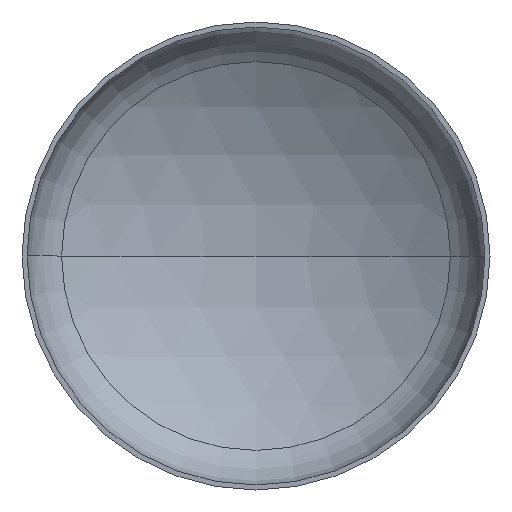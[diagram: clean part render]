
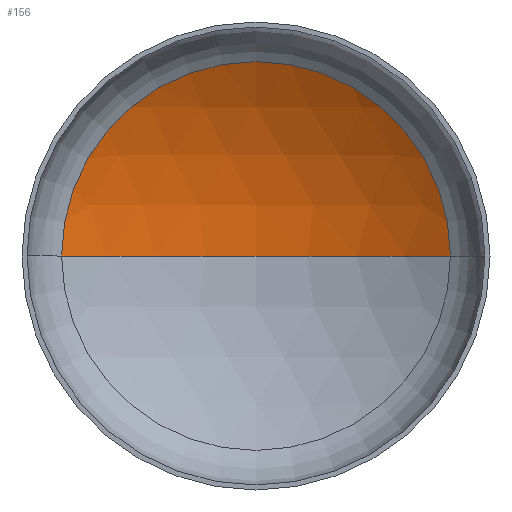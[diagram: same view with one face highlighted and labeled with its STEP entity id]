
A CAD part, front view. The second image highlights one B-rep face of the part: STEP entity #156.
In plain terms, the highlighted spherical face has radius 3200 mm.
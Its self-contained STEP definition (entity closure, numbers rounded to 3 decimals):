
#6 = DIRECTION ( 'NONE',  ( 0., 0., -1. ) ) ;
#9 = ORIENTED_EDGE ( 'NONE', *, *, #108, .F. ) ;
#12 = DIRECTION ( 'NONE',  ( 1., 0., 0. ) ) ;
#16 = EDGE_LOOP ( 'NONE', ( #9, #388, #249 ) ) ;
#51 = VERTEX_POINT ( 'NONE', #83 ) ;
#52 = AXIS2_PLACEMENT_3D ( 'NONE', #55, #129, #65 ) ;
#54 = CARTESIAN_POINT ( 'NONE',  ( 0., 655.631, 0. ) ) ;
#55 = CARTESIAN_POINT ( 'NONE',  ( 0., -2079.358, 0. ) ) ;
#57 = DIRECTION ( 'NONE',  ( -1., 0., 0. ) ) ;
#59 = AXIS2_PLACEMENT_3D ( 'NONE', #238, #319, #171 ) ;
#60 = AXIS2_PLACEMENT_3D ( 'NONE', #84, #6, #57 ) ;
#62 = AXIS2_PLACEMENT_3D ( 'NONE', #54, #73, #12 ) ;
#65 = DIRECTION ( 'NONE',  ( -1., 0., 0. ) ) ;
#73 = DIRECTION ( 'NONE',  ( 0., -1., 0. ) ) ;
#83 = CARTESIAN_POINT ( 'NONE',  ( 1661.277, 655.631, 0. ) ) ;
#84 = CARTESIAN_POINT ( 'NONE',  ( 0., -2079.358, 0. ) ) ;
#102 = EDGE_CURVE ( 'NONE', #51, #411, #386, .T. ) ;
#104 = EDGE_CURVE ( 'NONE', #315, #51, #318, .T. ) ;
#107 = SPHERICAL_SURFACE ( 'NONE', #52, 3200. ) ;
#108 = EDGE_CURVE ( 'NONE', #315, #411, #185, .T. ) ;
#129 = DIRECTION ( 'NONE',  ( 0., 0., -1. ) ) ;
#156 = ADVANCED_FACE ( 'NONE', ( #176 ), #107, .F. ) ;
#171 = DIRECTION ( 'NONE',  ( 1., 0., 0. ) ) ;
#176 = FACE_OUTER_BOUND ( 'NONE', #16, .T. ) ;
#185 = CIRCLE ( 'NONE', #59, 3200. ) ;
#223 = CARTESIAN_POINT ( 'NONE',  ( 0., 1120.642, 0. ) ) ;
#235 = CARTESIAN_POINT ( 'NONE',  ( -1661.277, 655.631, 0. ) ) ;
#238 = CARTESIAN_POINT ( 'NONE',  ( 0., -2079.358, 0. ) ) ;
#249 = ORIENTED_EDGE ( 'NONE', *, *, #102, .T. ) ;
#315 = VERTEX_POINT ( 'NONE', #223 ) ;
#318 = CIRCLE ( 'NONE', #60, 3200. ) ;
#319 = DIRECTION ( 'NONE',  ( 0., 0., 1. ) ) ;
#386 = CIRCLE ( 'NONE', #62, 1661.277 ) ;
#388 = ORIENTED_EDGE ( 'NONE', *, *, #104, .T. ) ;
#411 = VERTEX_POINT ( 'NONE', #235 ) ;
